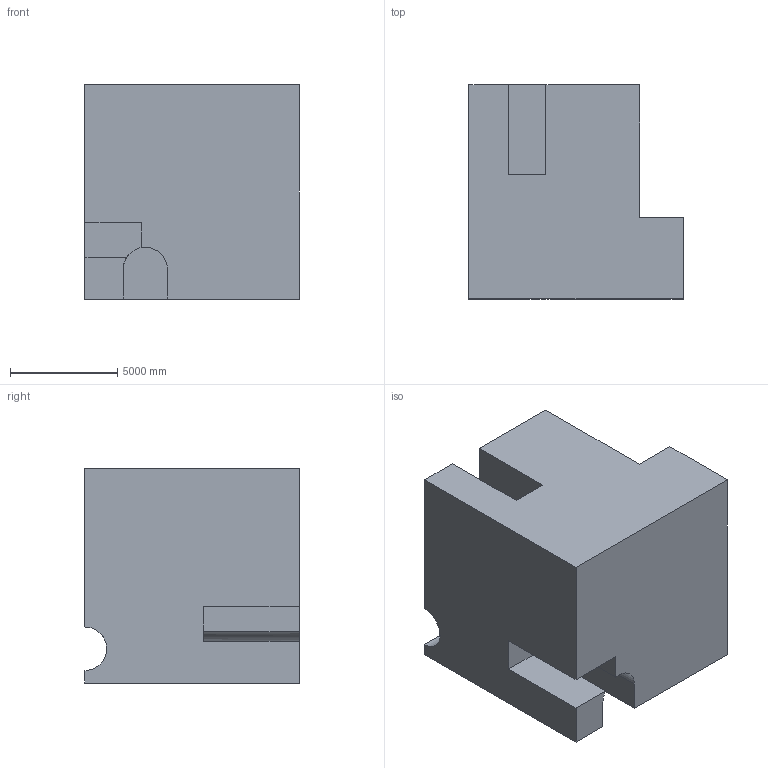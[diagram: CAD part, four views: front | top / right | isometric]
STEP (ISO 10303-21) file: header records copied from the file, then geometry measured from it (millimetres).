
FILE_DESCRIPTION (( 'STEP AP203' ), '1' );
FILE_NAME ('450.STEP', '2022-08-04T14:25:31', ( 'user' ), ( '' ), 'SwSTEP 2.0', 'SolidWorks 2021', '' );
FILE_SCHEMA (( 'CONFIG_CONTROL_DESIGN' ));
Length unit declared in the file: centimetre
Products named in the file (1): 450
Bounding box: 10000 x 10000 x 10000 mm (x, y, z)
Volume: 782058053253.6 mm3; surface area: 633745548.2 mm2
Topology: 1 solids, 1 shells, 23 faces, 63 edges, 42 vertices
Faces by surface type: plane 21, cylinder 2
Entity records: 799 total; most frequent: CARTESIAN_POINT 132, ORIENTED_EDGE 126, DIRECTION 115, EDGE_CURVE 63, VECTOR 57, LINE 57, VERTEX_POINT 42, AXIS2_PLACEMENT_3D 29
